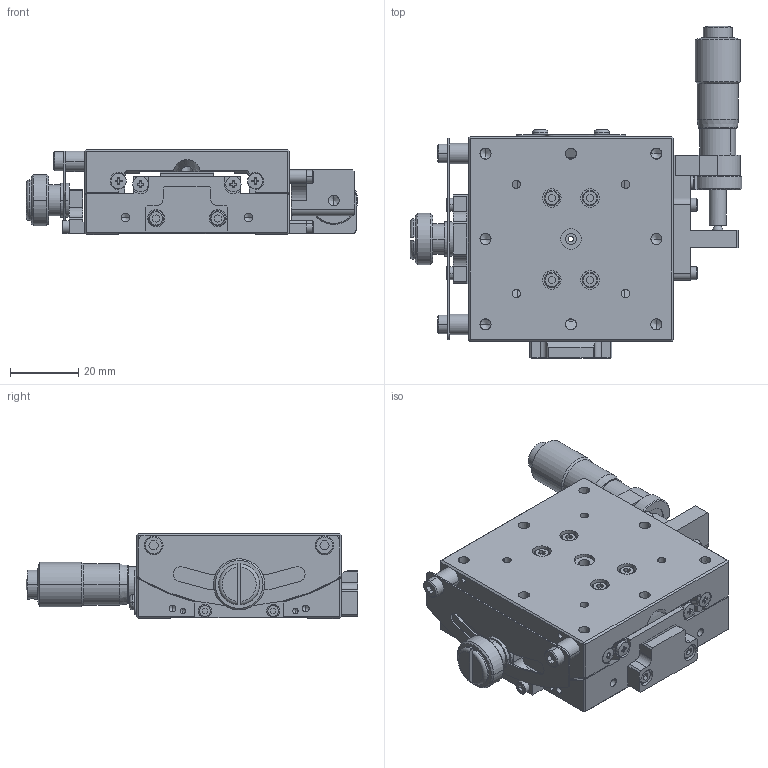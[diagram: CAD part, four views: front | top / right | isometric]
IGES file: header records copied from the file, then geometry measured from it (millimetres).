
Global section: file name: No Iges File Name specified; native system: AutoDesk Inventor R12.0; preprocessor: AutoDesk Inventor Iges Exporter R12.0; date: 20140222.142123; units: millimetre
Bounding box: 96.98 x 97.17 x 25 mm (x, y, z)
Volume: 77581.4 mm3; surface area: 39529.5 mm2
Topology: 2 solids, 48 shells, 1302 faces, 3196 edges, 1998 vertices
Faces by surface type: plane 576, bspline 367, cylinder 174, cone 96, revolution 67, sphere 16, torus 6
